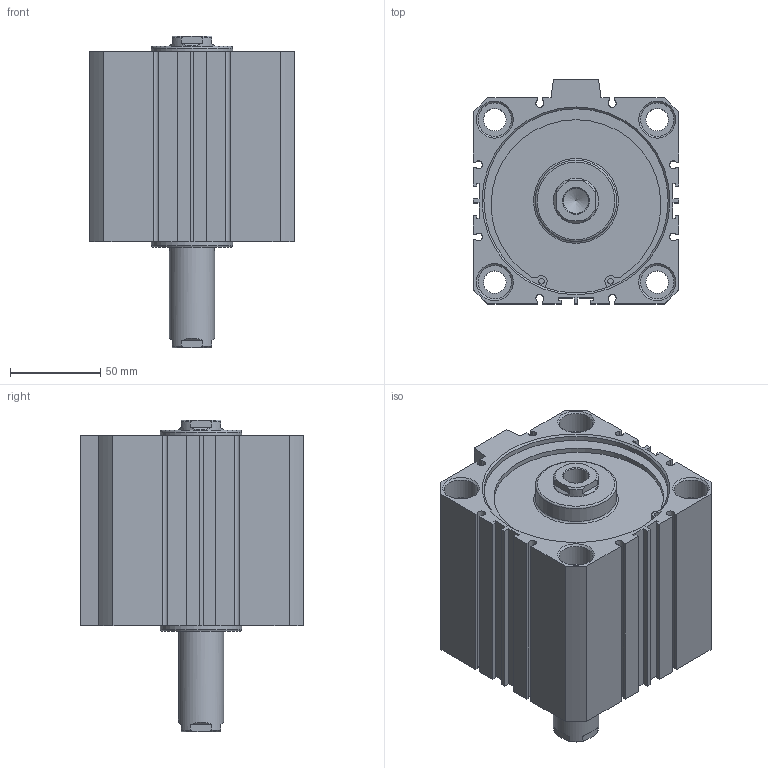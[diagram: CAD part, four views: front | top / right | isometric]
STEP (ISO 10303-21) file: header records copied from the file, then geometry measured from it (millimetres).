
FILE_DESCRIPTION((''),'2;1');
FILE_NAME('I:\3D電子目錄\氣缸\JDD\JDD-S\JDD100-S\JDD100x50-S.stp','2007-02-09T09:18:23',('662F206'),(''),'Autodesk Inventor 10','Autodesk Inventor 10','');
FILE_SCHEMA(('AUTOMOTIVE_DESIGN { 1 0 10303 214 1 1 1 1 }'));
Length unit declared in the file: millimetre
Products named in the file (3): JDD100-S; R 形環 100
Assembly tree (3 placements, depth 2):
  JDD100-S
    JDD100-S
    R 形環 100  x2
Bounding box: 114 x 124 x 172.7 mm (x, y, z)
Volume: 1214503.6 mm3; surface area: 133986.8 mm2
Topology: 3 solids, 3 shells, 200 faces, 502 edges, 330 vertices
Faces by surface type: plane 116, cylinder 52, cone 24, bspline 6, torus 2
Full cylindrical faces by diameter (mm): 3.1 x4, 3.5 x2, 12.5 x4, 18.5 x8, 25 x2, 45 x2, 102 x4, 106 x2
Entity records: 5511 total; most frequent: CARTESIAN_POINT 1094, DIRECTION 908, ORIENTED_EDGE 824, EDGE_CURVE 412, AXIS2_PLACEMENT_3D 324, VERTEX_POINT 300, EDGE_LOOP 272, VECTOR 260
